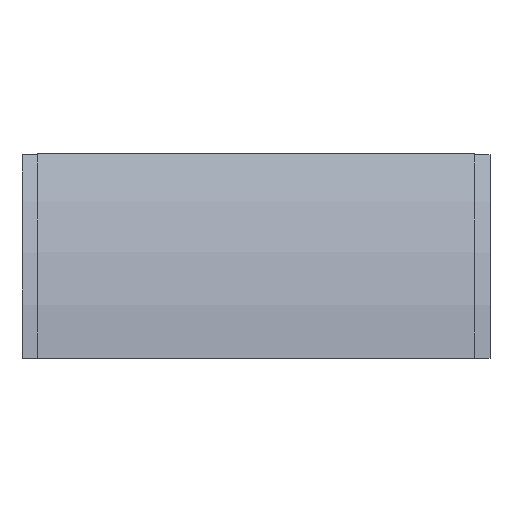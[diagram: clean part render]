
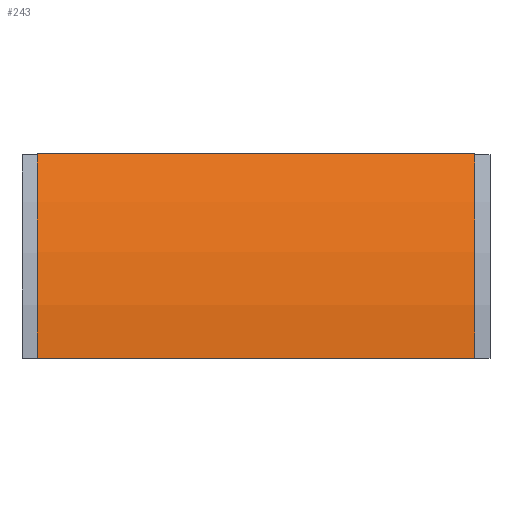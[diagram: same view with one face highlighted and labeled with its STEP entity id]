
A CAD part, front view. The second image highlights one B-rep face of the part: STEP entity #243.
In plain terms, the highlighted cylindrical face has radius 568 mm (diameter 1136 mm), a partial arc.
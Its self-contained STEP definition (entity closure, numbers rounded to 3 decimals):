
#15 = VERTEX_POINT ( 'NONE', #168 ) ;
#168 = CARTESIAN_POINT ( 'NONE',  ( 304.25, -68., 0. ) ) ;
#169 = CARTESIAN_POINT ( 'NONE',  ( 304.25, 8.098, 284. ) ) ;
#183 = VERTEX_POINT ( 'NONE', #169 ) ;
#206 = CARTESIAN_POINT ( 'NONE',  ( -304.25, -68., 0. ) ) ;
#243 = ADVANCED_FACE ( 'NONE', ( #867 ), #872, .T. ) ;
#287 = CARTESIAN_POINT ( 'NONE',  ( -304.25, 8.098, 284. ) ) ;
#319 = VERTEX_POINT ( 'NONE', #287 ) ;
#321 = CARTESIAN_POINT ( 'NONE',  ( -304.25, -68., 0. ) ) ;
#325 = DIRECTION ( 'NONE',  ( 1., 0., 0. ) ) ;
#326 = DIRECTION ( 'NONE',  ( 1., 0., 0. ) ) ;
#329 = CARTESIAN_POINT ( 'NONE',  ( -304.25, 8.098, 284. ) ) ;
#330 = CARTESIAN_POINT ( 'NONE',  ( 304.25, 500., 0. ) ) ;
#331 = DIRECTION ( 'NONE',  ( 1., 0., 0. ) ) ;
#332 = DIRECTION ( 'NONE',  ( 0., 0., -1. ) ) ;
#336 = CARTESIAN_POINT ( 'NONE',  ( -304.25, 500., 0. ) ) ;
#337 = DIRECTION ( 'NONE',  ( 1., 0., 0. ) ) ;
#338 = DIRECTION ( 'NONE',  ( 0., 0., -1. ) ) ;
#390 = LINE ( 'NONE', #329, #407 ) ;
#399 = LINE ( 'NONE', #321, #404 ) ;
#403 = CIRCLE ( 'NONE', #936, 568. ) ;
#404 = VECTOR ( 'NONE', #326, 1000. ) ;
#407 = VECTOR ( 'NONE', #325, 1000. ) ;
#408 = CIRCLE ( 'NONE', #935, 568. ) ;
#565 = DIRECTION ( 'NONE',  ( 0., 0., -1. ) ) ;
#566 = CARTESIAN_POINT ( 'NONE',  ( 0., 500., 0. ) ) ;
#567 = DIRECTION ( 'NONE',  ( 1., 0., 0. ) ) ;
#674 = ORIENTED_EDGE ( 'NONE', *, *, #941, .F. ) ;
#675 = ORIENTED_EDGE ( 'NONE', *, *, #942, .F. ) ;
#676 = ORIENTED_EDGE ( 'NONE', *, *, #944, .T. ) ;
#677 = ORIENTED_EDGE ( 'NONE', *, *, #940, .T. ) ;
#826 = EDGE_LOOP ( 'NONE', ( #674, #675, #676, #677 ) ) ;
#867 = FACE_OUTER_BOUND ( 'NONE', #826, .T. ) ;
#872 = CYLINDRICAL_SURFACE ( 'NONE', #1003, 568. ) ;
#935 = AXIS2_PLACEMENT_3D ( 'NONE', #336, #337, #338 ) ;
#936 = AXIS2_PLACEMENT_3D ( 'NONE', #330, #331, #332 ) ;
#940 = EDGE_CURVE ( 'NONE', #1020, #15, #399, .T. ) ;
#941 = EDGE_CURVE ( 'NONE', #183, #15, #403, .T. ) ;
#942 = EDGE_CURVE ( 'NONE', #319, #183, #390, .T. ) ;
#944 = EDGE_CURVE ( 'NONE', #319, #1020, #408, .T. ) ;
#1003 = AXIS2_PLACEMENT_3D ( 'NONE', #566, #567, #565 ) ;
#1020 = VERTEX_POINT ( 'NONE', #206 ) ;
